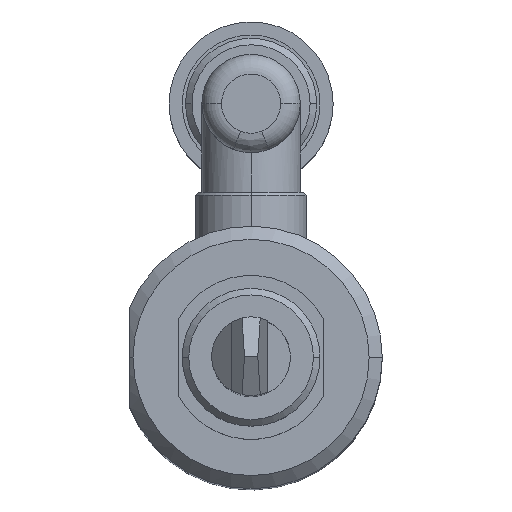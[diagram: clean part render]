
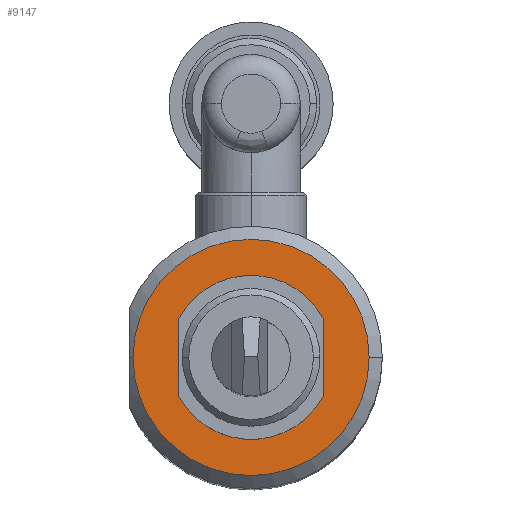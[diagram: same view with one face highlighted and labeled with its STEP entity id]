
A CAD part, top view. The second image highlights one B-rep face of the part: STEP entity #9147.
In plain terms, the highlighted planar face has unit normal (0, 0, 1).
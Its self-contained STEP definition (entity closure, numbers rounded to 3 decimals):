
#1888 = CARTESIAN_POINT ( 'NONE',  ( 18., 0., 60. ) ) ;
#1913 = EDGE_CURVE ( 'NONE', #26419, #28704, #24462, .T. ) ;
#3290 = FACE_BOUND ( 'NONE', #10641, .T. ) ;
#3420 = ORIENTED_EDGE ( 'NONE', *, *, #1913, .T. ) ;
#3702 = CIRCLE ( 'NONE', #4353, 18. ) ;
#4344 = DIRECTION ( 'NONE',  ( 1., 0., 0. ) ) ;
#4353 = AXIS2_PLACEMENT_3D ( 'NONE', #18117, #22962, #15557 ) ;
#5843 = DIRECTION ( 'NONE',  ( 0., 0., 1. ) ) ;
#6234 = ORIENTED_EDGE ( 'NONE', *, *, #28044, .T. ) ;
#7401 = CARTESIAN_POINT ( 'NONE',  ( -18., 0., 60. ) ) ;
#7640 = CARTESIAN_POINT ( 'NONE',  ( 10.5, 0., 60. ) ) ;
#7769 = EDGE_LOOP ( 'NONE', ( #24852, #3420 ) ) ;
#8667 = CARTESIAN_POINT ( 'NONE',  ( -10.5, 0., 60. ) ) ;
#9147 = ADVANCED_FACE ( 'NONE', ( #16500, #3290 ), #11517, .T. ) ;
#10641 = EDGE_LOOP ( 'NONE', ( #28443, #6234 ) ) ;
#11517 = PLANE ( 'NONE',  #22267 ) ;
#12400 = EDGE_CURVE ( 'NONE', #28704, #26419, #3702, .T. ) ;
#12743 = CIRCLE ( 'NONE', #17395, 10.5 ) ;
#12989 = CARTESIAN_POINT ( 'NONE',  ( 0., 0., 60. ) ) ;
#14384 = VERTEX_POINT ( 'NONE', #8667 ) ;
#15411 = DIRECTION ( 'NONE',  ( -1., 0., 0. ) ) ;
#15557 = DIRECTION ( 'NONE',  ( 1., 0., 0. ) ) ;
#15577 = DIRECTION ( 'NONE',  ( 0., 0., -1. ) ) ;
#16373 = CARTESIAN_POINT ( 'NONE',  ( 0., 0., 60. ) ) ;
#16500 = FACE_OUTER_BOUND ( 'NONE', #7769, .T. ) ;
#16595 = DIRECTION ( 'NONE',  ( 0., 0., 1. ) ) ;
#17155 = AXIS2_PLACEMENT_3D ( 'NONE', #12989, #17754, #15411 ) ;
#17395 = AXIS2_PLACEMENT_3D ( 'NONE', #29832, #15577, #20654 ) ;
#17754 = DIRECTION ( 'NONE',  ( 0., 0., -1. ) ) ;
#18117 = CARTESIAN_POINT ( 'NONE',  ( 0., 0., 60. ) ) ;
#20654 = DIRECTION ( 'NONE',  ( -1., 0., 0. ) ) ;
#22267 = AXIS2_PLACEMENT_3D ( 'NONE', #16373, #16595, #4344 ) ;
#22843 = VERTEX_POINT ( 'NONE', #7640 ) ;
#22962 = DIRECTION ( 'NONE',  ( 0., 0., 1. ) ) ;
#23052 = DIRECTION ( 'NONE',  ( 1., 0., 0. ) ) ;
#24462 = CIRCLE ( 'NONE', #26160, 18. ) ;
#24852 = ORIENTED_EDGE ( 'NONE', *, *, #12400, .T. ) ;
#25825 = CIRCLE ( 'NONE', #17155, 10.5 ) ;
#26160 = AXIS2_PLACEMENT_3D ( 'NONE', #27458, #5843, #23052 ) ;
#26419 = VERTEX_POINT ( 'NONE', #1888 ) ;
#27458 = CARTESIAN_POINT ( 'NONE',  ( 0., 0., 60. ) ) ;
#28044 = EDGE_CURVE ( 'NONE', #14384, #22843, #25825, .T. ) ;
#28443 = ORIENTED_EDGE ( 'NONE', *, *, #30641, .T. ) ;
#28704 = VERTEX_POINT ( 'NONE', #7401 ) ;
#29832 = CARTESIAN_POINT ( 'NONE',  ( 0., 0., 60. ) ) ;
#30641 = EDGE_CURVE ( 'NONE', #22843, #14384, #12743, .T. ) ;
